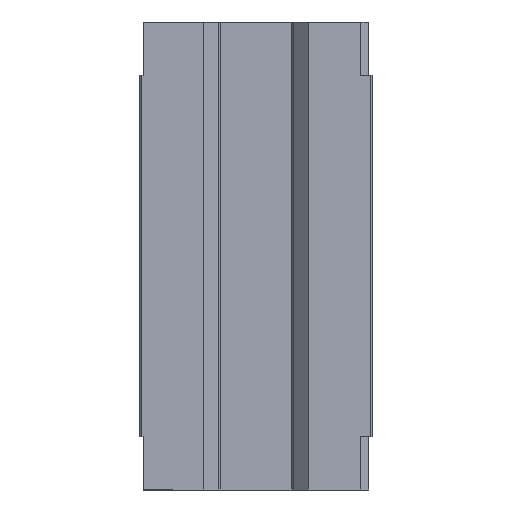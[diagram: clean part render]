
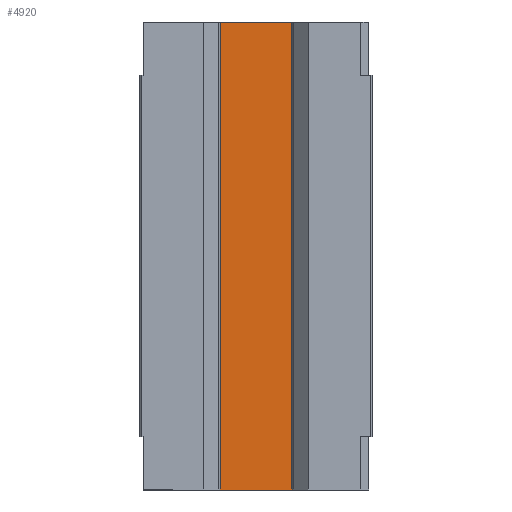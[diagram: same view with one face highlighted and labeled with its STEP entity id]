
A CAD part, front view. The second image highlights one B-rep face of the part: STEP entity #4920.
In plain terms, the highlighted planar face has unit normal (0, -1, 0).
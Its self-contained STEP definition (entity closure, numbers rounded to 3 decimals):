
#893 = DIRECTION ( 'NONE',  ( 1., 0., 0. ) ) ;
#955 = CARTESIAN_POINT ( 'NONE',  ( -9.256, 0., -60.2 ) ) ;
#1168 = ORIENTED_EDGE ( 'NONE', *, *, #2168, .F. ) ;
#1198 = VERTEX_POINT ( 'NONE', #955 ) ;
#1270 = FACE_OUTER_BOUND ( 'NONE', #3831, .T. ) ;
#2168 = EDGE_CURVE ( 'NONE', #1198, #5887, #5870, .T. ) ;
#2203 = DIRECTION ( 'NONE',  ( 0., -1., 0. ) ) ;
#2232 = PLANE ( 'NONE',  #6782 ) ;
#2234 = CARTESIAN_POINT ( 'NONE',  ( -9.256, 0., -60.2 ) ) ;
#2314 = DIRECTION ( 'NONE',  ( 1., 0., 0. ) ) ;
#2772 = EDGE_CURVE ( 'NONE', #1198, #5224, #5328, .T. ) ;
#3450 = ORIENTED_EDGE ( 'NONE', *, *, #3532, .T. ) ;
#3532 = EDGE_CURVE ( 'NONE', #5224, #5606, #6173, .T. ) ;
#3831 = EDGE_LOOP ( 'NONE', ( #6737, #1168, #8440, #3450 ) ) ;
#4601 = CARTESIAN_POINT ( 'NONE',  ( 9.256, 0., -60.2 ) ) ;
#4654 = DIRECTION ( 'NONE',  ( 0., 0., 1. ) ) ;
#4872 = DIRECTION ( 'NONE',  ( 1., 0., 0. ) ) ;
#4894 = CARTESIAN_POINT ( 'NONE',  ( -9.256, 0., 60.2 ) ) ;
#4920 = ADVANCED_FACE ( 'NONE', ( #1270 ), #2232, .T. ) ;
#5134 = CARTESIAN_POINT ( 'NONE',  ( -9.256, 0., -60.2 ) ) ;
#5224 = VERTEX_POINT ( 'NONE', #8201 ) ;
#5328 = LINE ( 'NONE', #2234, #8012 ) ;
#5606 = VERTEX_POINT ( 'NONE', #7839 ) ;
#5870 = LINE ( 'NONE', #9050, #8397 ) ;
#5887 = VERTEX_POINT ( 'NONE', #6512 ) ;
#5973 = VECTOR ( 'NONE', #4654, 1000. ) ;
#6173 = LINE ( 'NONE', #4601, #5973 ) ;
#6229 = EDGE_CURVE ( 'NONE', #5887, #5606, #8972, .T. ) ;
#6512 = CARTESIAN_POINT ( 'NONE',  ( -9.256, 0., 60.2 ) ) ;
#6586 = DIRECTION ( 'NONE',  ( 0., 0., 1. ) ) ;
#6737 = ORIENTED_EDGE ( 'NONE', *, *, #6229, .F. ) ;
#6782 = AXIS2_PLACEMENT_3D ( 'NONE', #5134, #2203, #893 ) ;
#7839 = CARTESIAN_POINT ( 'NONE',  ( 9.256, 0., 60.2 ) ) ;
#8012 = VECTOR ( 'NONE', #2314, 1000. ) ;
#8201 = CARTESIAN_POINT ( 'NONE',  ( 9.256, 0., -60.2 ) ) ;
#8397 = VECTOR ( 'NONE', #6586, 1000. ) ;
#8440 = ORIENTED_EDGE ( 'NONE', *, *, #2772, .T. ) ;
#8947 = VECTOR ( 'NONE', #4872, 1000. ) ;
#8972 = LINE ( 'NONE', #4894, #8947 ) ;
#9050 = CARTESIAN_POINT ( 'NONE',  ( -9.256, 0., -60.2 ) ) ;
